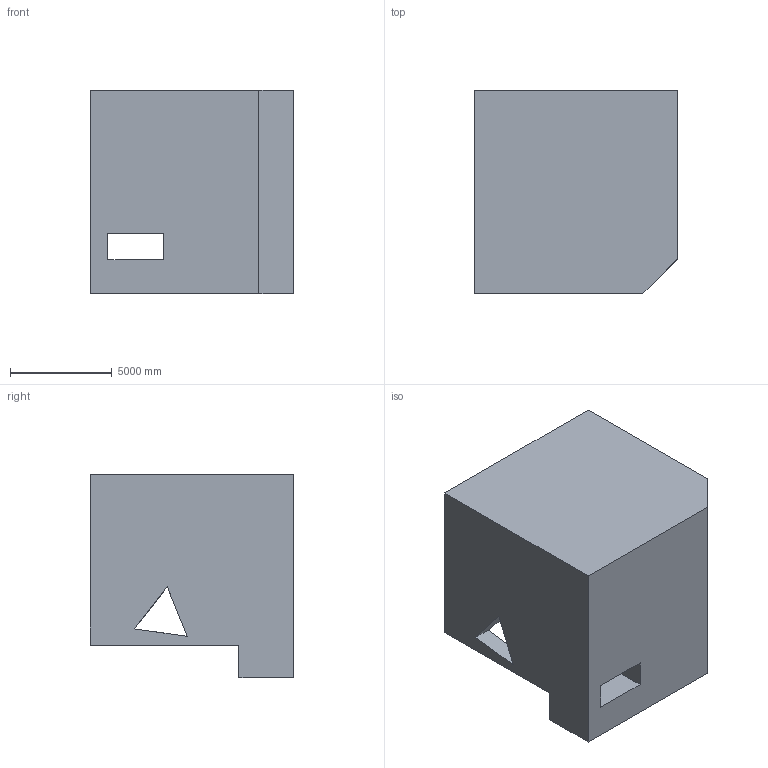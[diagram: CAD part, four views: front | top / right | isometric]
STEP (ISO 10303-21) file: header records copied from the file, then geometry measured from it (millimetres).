
FILE_DESCRIPTION (( 'STEP AP203' ), '1' );
FILE_NAME ('1664.STEP', '2022-08-19T11:30:00', ( 'user' ), ( '' ), 'SwSTEP 2.0', 'SolidWorks 2021', '' );
FILE_SCHEMA (( 'CONFIG_CONTROL_DESIGN' ));
Length unit declared in the file: centimetre
Products named in the file (1): 1664
Bounding box: 10000 x 10000 x 10000 mm (x, y, z)
Volume: 749866650215.6 mm3; surface area: 670391324.7 mm2
Topology: 1 solids, 1 shells, 32 faces, 101 edges, 67 vertices
Faces by surface type: plane 30, cylinder 2
Entity records: 1189 total; most frequent: CARTESIAN_POINT 204, ORIENTED_EDGE 202, DIRECTION 169, EDGE_CURVE 101, LINE 97, VECTOR 97, VERTEX_POINT 67, AXIS2_PLACEMENT_3D 36
